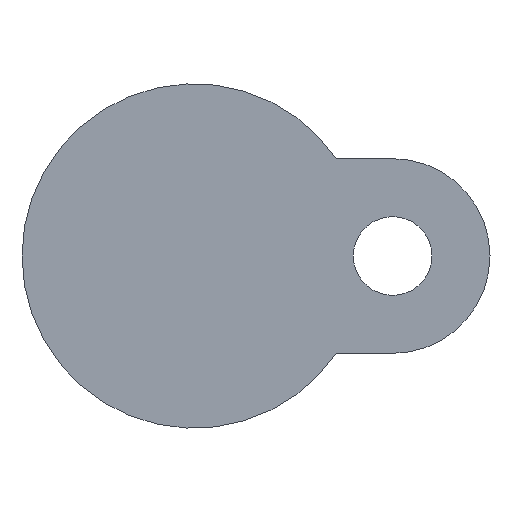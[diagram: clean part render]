
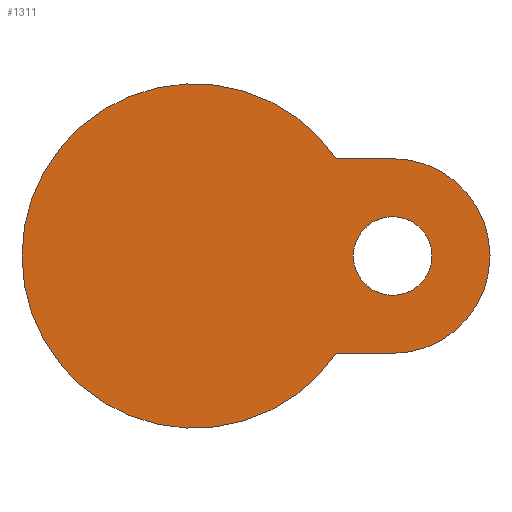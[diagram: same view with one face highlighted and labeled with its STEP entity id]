
A CAD part, front view. The second image highlights one B-rep face of the part: STEP entity #1311.
In plain terms, the highlighted planar face has unit normal (0, -1, 0).
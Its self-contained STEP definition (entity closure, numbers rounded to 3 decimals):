
#99 = FACE_OUTER_BOUND ( 'NONE', #1309, .T. ) ;
#121 = FACE_BOUND ( 'NONE', #253, .T. ) ;
#133 = CARTESIAN_POINT ( 'NONE',  ( 26.5, -16., 13. ) ) ;
#162 = AXIS2_PLACEMENT_3D ( 'NONE', #188, #651, #1474 ) ;
#188 = CARTESIAN_POINT ( 'NONE',  ( 26.5, -16., 0. ) ) ;
#208 = CIRCLE ( 'NONE', #1142, 5.25 ) ;
#233 = DIRECTION ( 'NONE',  ( 1., 0., 0. ) ) ;
#234 = AXIS2_PLACEMENT_3D ( 'NONE', #541, #664, #900 ) ;
#253 = EDGE_LOOP ( 'NONE', ( #894, #720 ) ) ;
#308 = LINE ( 'NONE', #1097, #1266 ) ;
#326 = CARTESIAN_POINT ( 'NONE',  ( 26.5, -16., 0. ) ) ;
#333 = CARTESIAN_POINT ( 'NONE',  ( 31.75, -16., 0. ) ) ;
#362 = EDGE_CURVE ( 'NONE', #581, #1247, #208, .T. ) ;
#396 = EDGE_CURVE ( 'NONE', #1247, #581, #1217, .T. ) ;
#398 = EDGE_CURVE ( 'NONE', #1072, #501, #1289, .T. ) ;
#428 = DIRECTION ( 'NONE',  ( 0., -1., 0. ) ) ;
#430 = DIRECTION ( 'NONE',  ( -1., 0., 0. ) ) ;
#501 = VERTEX_POINT ( 'NONE', #537 ) ;
#532 = ORIENTED_EDGE ( 'NONE', *, *, #1322, .F. ) ;
#537 = CARTESIAN_POINT ( 'NONE',  ( 26.5, -16., -13. ) ) ;
#541 = CARTESIAN_POINT ( 'NONE',  ( 26.5, -16., 0. ) ) ;
#552 = CARTESIAN_POINT ( 'NONE',  ( 18.974, -16., -13. ) ) ;
#557 = AXIS2_PLACEMENT_3D ( 'NONE', #1371, #583, #233 ) ;
#568 = DIRECTION ( 'NONE',  ( -1., 0., 0. ) ) ;
#581 = VERTEX_POINT ( 'NONE', #1365 ) ;
#583 = DIRECTION ( 'NONE',  ( 0., -1., 0. ) ) ;
#593 = AXIS2_PLACEMENT_3D ( 'NONE', #779, #428, #903 ) ;
#651 = DIRECTION ( 'NONE',  ( 0., 1., 0. ) ) ;
#664 = DIRECTION ( 'NONE',  ( 0., 1., 0. ) ) ;
#720 = ORIENTED_EDGE ( 'NONE', *, *, #396, .T. ) ;
#739 = VERTEX_POINT ( 'NONE', #1197 ) ;
#779 = CARTESIAN_POINT ( 'NONE',  ( 0., -16., 0. ) ) ;
#826 = VERTEX_POINT ( 'NONE', #552 ) ;
#846 = EDGE_CURVE ( 'NONE', #739, #826, #935, .T. ) ;
#894 = ORIENTED_EDGE ( 'NONE', *, *, #362, .T. ) ;
#900 = DIRECTION ( 'NONE',  ( -1., 0., 0. ) ) ;
#903 = DIRECTION ( 'NONE',  ( 1., 0., 0. ) ) ;
#931 = CARTESIAN_POINT ( 'NONE',  ( 13.5, -16., -13. ) ) ;
#935 = CIRCLE ( 'NONE', #593, 23. ) ;
#959 = ORIENTED_EDGE ( 'NONE', *, *, #398, .F. ) ;
#1008 = DIRECTION ( 'NONE',  ( 0., 1., 0. ) ) ;
#1009 = VECTOR ( 'NONE', #568, 1000. ) ;
#1072 = VERTEX_POINT ( 'NONE', #133 ) ;
#1097 = CARTESIAN_POINT ( 'NONE',  ( 13.5, -16., 13. ) ) ;
#1128 = ORIENTED_EDGE ( 'NONE', *, *, #1137, .F. ) ;
#1137 = EDGE_CURVE ( 'NONE', #739, #1072, #308, .T. ) ;
#1138 = LINE ( 'NONE', #931, #1009 ) ;
#1142 = AXIS2_PLACEMENT_3D ( 'NONE', #326, #1008, #430 ) ;
#1197 = CARTESIAN_POINT ( 'NONE',  ( 18.974, -16., 13. ) ) ;
#1217 = CIRCLE ( 'NONE', #234, 5.25 ) ;
#1247 = VERTEX_POINT ( 'NONE', #333 ) ;
#1266 = VECTOR ( 'NONE', #1338, 1000. ) ;
#1289 = CIRCLE ( 'NONE', #162, 13. ) ;
#1309 = EDGE_LOOP ( 'NONE', ( #1411, #532, #959, #1128 ) ) ;
#1311 = ADVANCED_FACE ( 'NONE', ( #121, #99 ), #1476, .T. ) ;
#1322 = EDGE_CURVE ( 'NONE', #501, #826, #1138, .T. ) ;
#1338 = DIRECTION ( 'NONE',  ( 1., 0., 0. ) ) ;
#1365 = CARTESIAN_POINT ( 'NONE',  ( 21.25, -16., 0. ) ) ;
#1371 = CARTESIAN_POINT ( 'NONE',  ( 23., -16., 0. ) ) ;
#1411 = ORIENTED_EDGE ( 'NONE', *, *, #846, .T. ) ;
#1474 = DIRECTION ( 'NONE',  ( 1., 0., 0. ) ) ;
#1476 = PLANE ( 'NONE',  #557 ) ;
